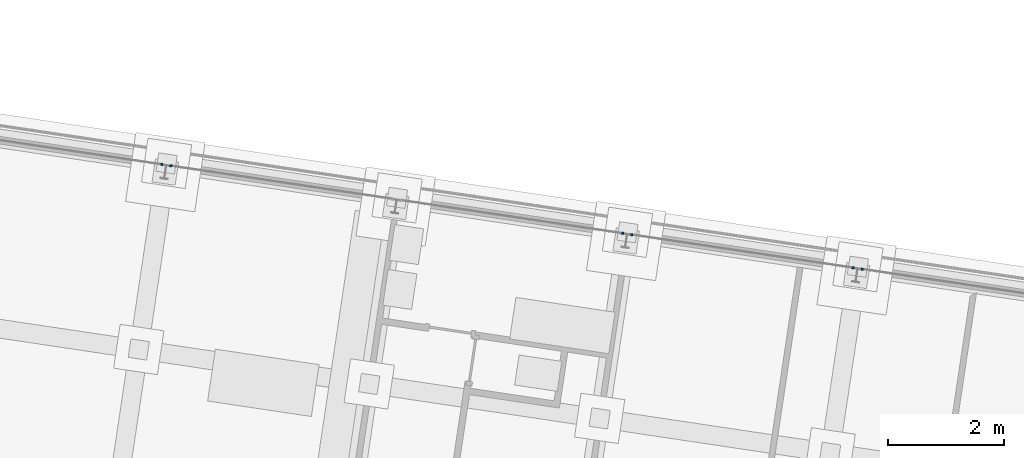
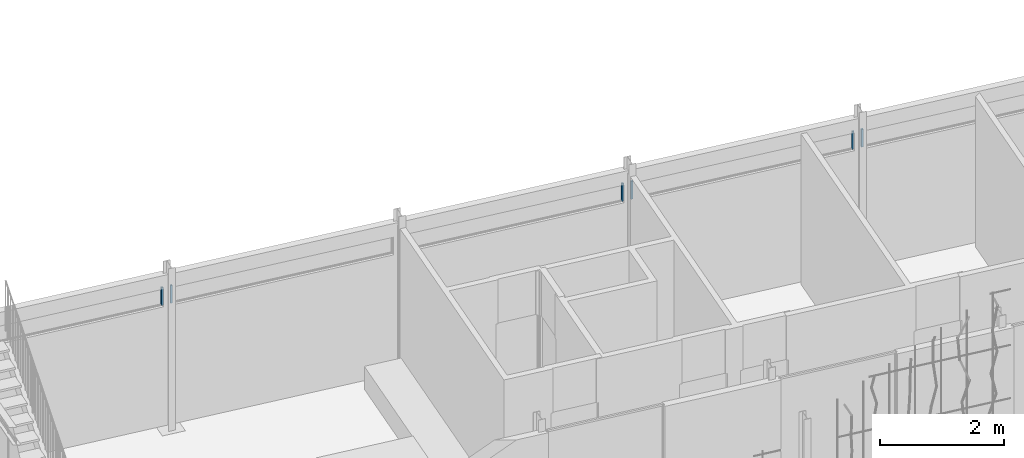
# One storey, part 122 of 142: 6 members.
"""IFC4 building model written with IfcOpenShell, lengths in metres."""

from ifc_helpers import new_model, si_unit, direction, frame, origin_with_axes, place, context, subcontext, project, spatial, rectangle, extrude, material, material_profile, profile_set, profile_usage, type_object, element, save


model = new_model("IFC4")

# Units and contexts
model_context = context("Model", 3, precision=1e-05, world=origin_with_axes(), true_north=direction((0.0, 1.0)))
body_context = subcontext(model_context, "Body", "Model", "MODEL_VIEW")
ifc_project = project(units=[si_unit("LENGTHUNIT", "METRE"), si_unit("AREAUNIT", "SQUARE_METRE"), si_unit("VOLUMEUNIT", "CUBIC_METRE")], contexts=[model_context])

# Site, building, storey
site_placement = place(None, origin_with_axes())
site = spatial("IfcSite", under=ifc_project, at=site_placement, Name="Lares · Rua das Mercês · artigo 4771")
building_placement = place(site_placement, frame((15.0, 9.7, 14.65), z_axis=(0.0, 0.0, 1.0), x_axis=(0.989015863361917, -0.147809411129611, 0.0)))
building = spatial("IfcBuilding", under=site, at=building_placement, Name="Casa Sobreposta")
storey_placement = place(building_placement, origin_with_axes())
storey = spatial("IfcBuildingStorey", under=building, at=storey_placement, Name="00 · Habitação e estacionamento", Elevation=14.65)

# Members
ifc_material = material(Name="Aço pintado / Stahl lackiert", Category="steel")
ifc_material_profile = material_profile(ifc_material, rectangle(XDim=0.035, YDim=0.035))
ifc_profile_set = profile_set([ifc_material_profile], Name="R0.035")
ifc_profile_usage_1 = profile_usage(ifc_profile_set)
member_type = type_object("IfcMemberType", Name="R0.035 / steel", PredefinedType="NOTDEFINED", material=ifc_profile_set)
member_1_placement = place(storey_placement, frame((3.92, 6.4, 2.35), z_axis=(0.0, 0.0, 1.0), x_axis=(1.0, 0.0, 0.0)))
element("IfcMember", 1, at=member_1_placement, inside=storey, type_object=member_type, material=ifc_profile_usage_1, Name="Rasgo norte 1 · montante", context=body_context, shape_type="SweptSolid", body=[
    extrude(rectangle(XDim=0.035, YDim=0.035), origin_with_axes(), (0.0, 0.0, 1.0), 0.35),
])
ifc_profile_usage_2 = profile_usage(ifc_profile_set)
member_2_placement = place(storey_placement, frame((4.08, 6.4, 2.35), z_axis=(0.0, 0.0, 1.0), x_axis=(1.0, 0.0, 0.0)))
element("IfcMember", 2, at=member_2_placement, inside=storey, type_object=member_type, material=ifc_profile_usage_2, Name="Rasgo norte 2 · montante", context=body_context, shape_type="SweptSolid", body=[
    extrude(rectangle(XDim=0.035, YDim=0.035), origin_with_axes(), (0.0, 0.0, 1.0), 0.35),
])
ifc_profile_usage_3 = profile_usage(ifc_profile_set)
member_3_placement = place(storey_placement, frame((11.92, 6.4, 2.35), z_axis=(0.0, 0.0, 1.0), x_axis=(1.0, 0.0, 0.0)))
element("IfcMember", 3, at=member_3_placement, inside=storey, type_object=member_type, material=ifc_profile_usage_3, Name="Rasgo norte 3 · montante", context=body_context, shape_type="SweptSolid", body=[
    extrude(rectangle(XDim=0.035, YDim=0.035), origin_with_axes(), (0.0, 0.0, 1.0), 0.35),
])
ifc_profile_usage_4 = profile_usage(ifc_profile_set)
member_4_placement = place(storey_placement, frame((12.08, 6.4, 2.35), z_axis=(0.0, 0.0, 1.0), x_axis=(1.0, 0.0, 0.0)))
element("IfcMember", 4, at=member_4_placement, inside=storey, type_object=member_type, material=ifc_profile_usage_4, Name="Rasgo norte 4 · montante", context=body_context, shape_type="SweptSolid", body=[
    extrude(rectangle(XDim=0.035, YDim=0.035), origin_with_axes(), (0.0, 0.0, 1.0), 0.35),
])
ifc_profile_usage_5 = profile_usage(ifc_profile_set)
member_5_placement = place(storey_placement, frame((15.92, 6.4, 2.35), z_axis=(0.0, 0.0, 1.0), x_axis=(1.0, 0.0, 0.0)))
element("IfcMember", 5, at=member_5_placement, inside=storey, type_object=member_type, material=ifc_profile_usage_5, Name="Rasgo norte 4 · montante", context=body_context, shape_type="SweptSolid", body=[
    extrude(rectangle(XDim=0.035, YDim=0.035), origin_with_axes(), (0.0, 0.0, 1.0), 0.35),
])
ifc_profile_usage_6 = profile_usage(ifc_profile_set)
member_6_placement = place(storey_placement, frame((16.08, 6.4, 2.35), z_axis=(0.0, 0.0, 1.0), x_axis=(1.0, 0.0, 0.0)))
element("IfcMember", 6, at=member_6_placement, inside=storey, type_object=member_type, material=ifc_profile_usage_6, Name="Rasgo norte 5 · montante", context=body_context, shape_type="SweptSolid", body=[
    extrude(rectangle(XDim=0.035, YDim=0.035), origin_with_axes(), (0.0, 0.0, 1.0), 0.35),
])

save(model, "model.ifc")
